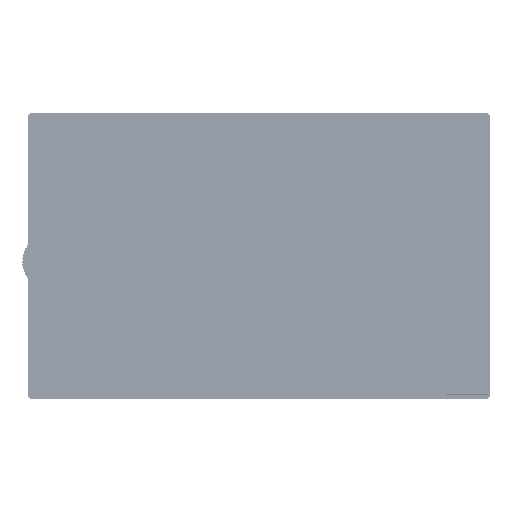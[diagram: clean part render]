
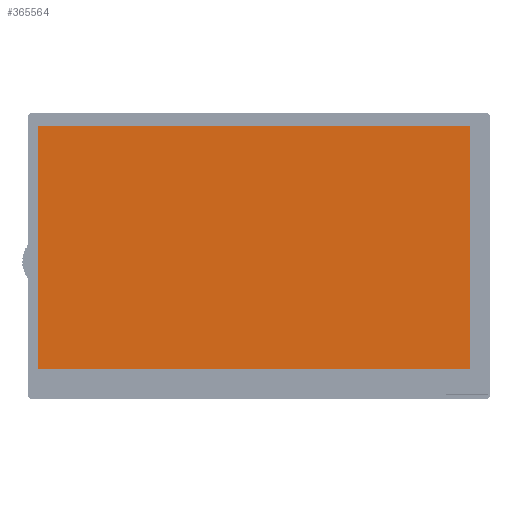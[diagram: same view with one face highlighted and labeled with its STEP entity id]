
A CAD part, top view. The second image highlights one B-rep face of the part: STEP entity #365564.
In plain terms, the highlighted planar face has unit normal (0, 0, 1).
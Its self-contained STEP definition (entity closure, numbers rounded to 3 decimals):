
#22900=ORIENTED_EDGE('',*,*,#169954,.F.);
#22901=ORIENTED_EDGE('',*,*,#169964,.F.);
#22902=ORIENTED_EDGE('',*,*,#169961,.F.);
#22903=ORIENTED_EDGE('',*,*,#169958,.F.);
#169954=EDGE_CURVE('',#243497,#243498,#473541,.T.);
#169958=EDGE_CURVE('',#243498,#243501,#473545,.T.);
#169961=EDGE_CURVE('',#243501,#243503,#473548,.T.);
#169964=EDGE_CURVE('',#243503,#243497,#473551,.T.);
#243497=VERTEX_POINT('',#764618);
#243498=VERTEX_POINT('',#764619);
#243501=VERTEX_POINT('',#764627);
#243503=VERTEX_POINT('',#764633);
#290823=EDGE_LOOP('',(#22900,#22901,#22902,#22903));
#319549=FACE_BOUND('',#290823,.T.);
#348271=PLANE('',#622781);
#365564=ADVANCED_FACE('',(#319549),#348271,.F.);
#473541=LINE('',#764617,#527863);
#473545=LINE('',#764626,#527867);
#473548=LINE('',#764632,#527870);
#473551=LINE('',#764638,#527873);
#527863=VECTOR('',#652033,1000.);
#527867=VECTOR('',#652039,1000.);
#527870=VECTOR('',#652044,1000.);
#527873=VECTOR('',#652049,1000.);
#622781=AXIS2_PLACEMENT_3D('',#764641,#652053,#652054);
#652033=DIRECTION('',(1.,0.,0.));
#652039=DIRECTION('',(0.,-1.,0.));
#652044=DIRECTION('',(-1.,0.,0.));
#652049=DIRECTION('',(0.,1.,0.));
#652053=DIRECTION('',(0.,0.,-1.));
#652054=DIRECTION('',(-1.,0.,0.));
#764617=CARTESIAN_POINT('',(-77.34,43.51,0.001));
#764618=CARTESIAN_POINT('',(-77.34,43.51,0.001));
#764619=CARTESIAN_POINT('',(77.34,43.51,0.001));
#764626=CARTESIAN_POINT('',(77.34,43.51,0.001));
#764627=CARTESIAN_POINT('',(77.34,-43.51,0.001));
#764632=CARTESIAN_POINT('',(77.34,-43.51,0.001));
#764633=CARTESIAN_POINT('',(-77.34,-43.51,0.001));
#764638=CARTESIAN_POINT('',(-77.34,-43.51,0.001));
#764641=CARTESIAN_POINT('',(0.,0.,0.001));
